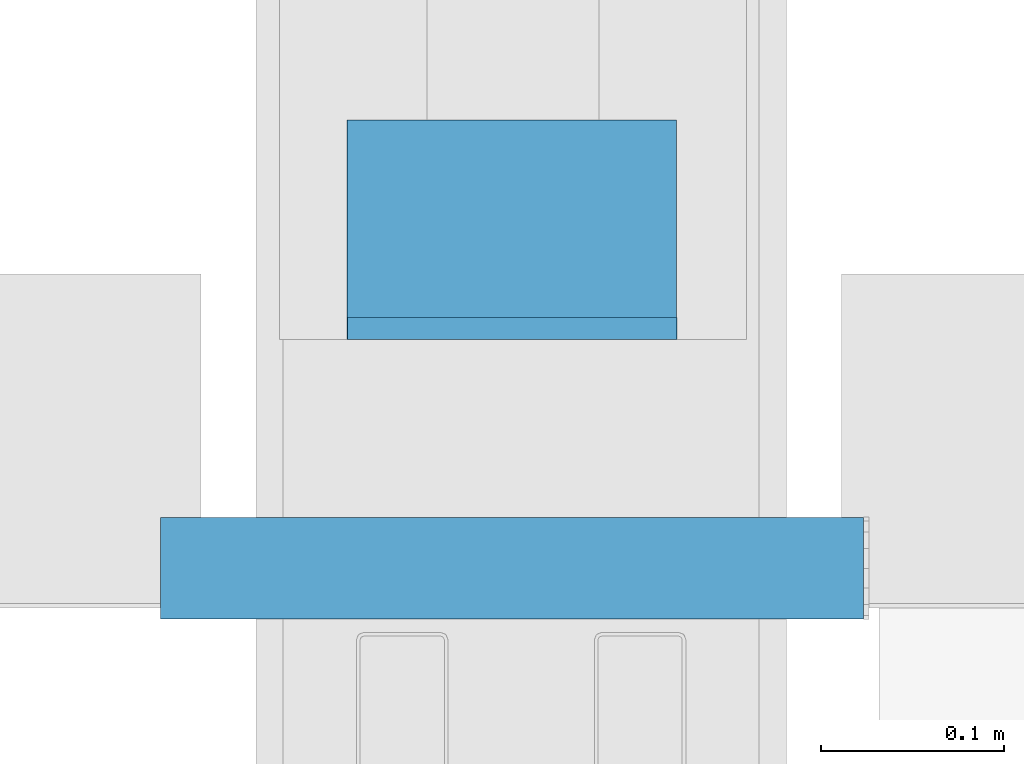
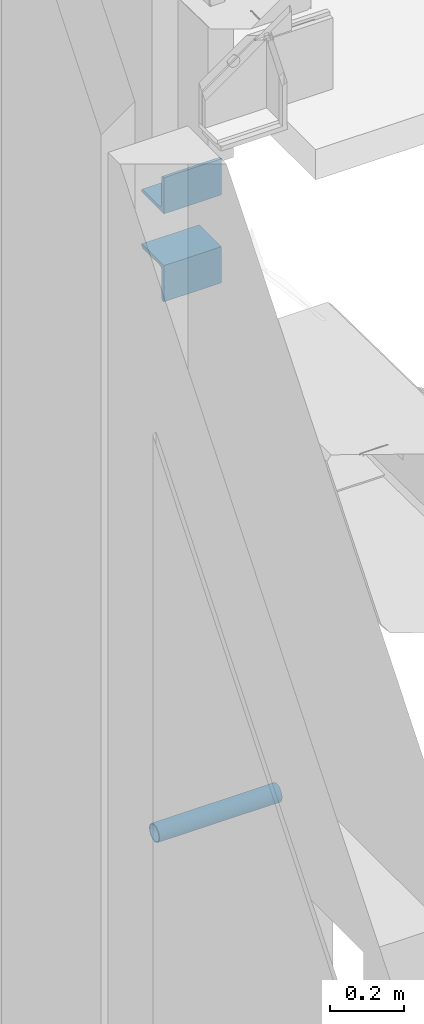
# One storey, part 17 of 186: 3 beams.
"""IFC4X3_ADD2 building model written with IfcOpenShell, lengths in millimetres."""

from ifc_helpers import new_model, si_unit, direction, frame, frame_2d, origin_with_axes, place, context, subcontext, project, spatial, hollow_circle, l_section, extrude, material, element, save


model = new_model("IFC4X3_ADD2")

# Units and contexts
model_context = context("Model", 3, precision=1e-05, world=origin_with_axes(), true_north=direction((0.0, 1.0)))
body_context = subcontext(model_context, "Body", "Model", "MODEL_VIEW")
ifc_project = project(units=[si_unit("LENGTHUNIT", "METRE", prefix="MILLI"), si_unit("AREAUNIT", "SQUARE_METRE"), si_unit("VOLUMEUNIT", "CUBIC_METRE"), si_unit("PLANEANGLEUNIT", "RADIAN"), si_unit("TIMEUNIT", "SECOND"), si_unit("MASSUNIT", "GRAM")], contexts=[model_context])

# Site, building, storey
site_placement = place(None, origin_with_axes())
site = spatial("IfcSite", under=ifc_project, at=site_placement, Name="Site", CompositionType="ELEMENT")
building_placement = place(site_placement, origin_with_axes())
building = spatial("IfcBuilding", under=site, at=building_placement, Name="IFC Building Story")
storey_placement = place(building_placement, frame((0.0, 0.0, 4370.0), z_axis=(0.0, 0.0, 1.0), x_axis=(1.0, 0.0, 0.0)))
storey = spatial("IfcBuildingStorey", under=building, at=storey_placement, Name="ETAGE 10 (1)", Elevation=4370.0)

# Beams
ifc_material_1 = material(Name="BS_28_Métal")
for number, where, z_axis, x_axis, name in (
    (1, (33491.21541473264, 460.0164101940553, 3340.78637829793), (-0.9999995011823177, 1.597807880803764e-05, 0.000998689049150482), (0.0009986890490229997, -1.595713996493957e-08, 0.9999995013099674), "C_28_104 - Cornière symétrique:L120x120x12"),
    (2, (33491.13017219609, 460.019827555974, 3050.000029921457), (-0.9999995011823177, 1.597807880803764e-05, 0.000998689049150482), (1.597808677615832e-05, 0.9999999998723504, 0.0), "C_28_104 - Cornière symétrique:L120x120x12"),
):
    element("IfcBeam", number, at=place(storey_placement, frame(where, z_axis=z_axis, x_axis=x_axis)), inside=storey, material=ifc_material_1, Name=name, ObjectType="L120x120x12", context=body_context, shape_type="SweptSolid", body=[
        extrude(l_section(Depth=120.0000000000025, Width=120.0, Thickness=12.00000000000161, FilletRadius=13.0000000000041, EdgeRadius=4.799999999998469, LegSlope=0.0, at=frame_2d((0.0, 5.95523630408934e-12), x_axis=(1.0, 0.0))), origin_with_axes(), (0.0, 0.0, 1.0), 180.0000897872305),
    ])
ifc_material_2 = material(Name="STEEL/Accessory_PVC")
beam_placement = place(storey_placement, frame((33209.1882547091, 274.999963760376, 1346.422), z_axis=(1.0, 0.0, 0.0), x_axis=(0.0, 0.0, -1.0)))
element("IfcBeam", 3, at=beam_placement, inside=storey, material=ifc_material_2, Name="PS13", ObjectType="O56*3", context=body_context, shape_type="SweptSolid", body=[
    extrude(hollow_circle(Radius=28.0, WallThickness=3.0, at=frame_2d((0.0, 5.95523630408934e-12), x_axis=(1.0, 0.0))), origin_with_axes(), (0.0, 0.0, 1.0), 384.0),
])

save(model, "model.ifc")
